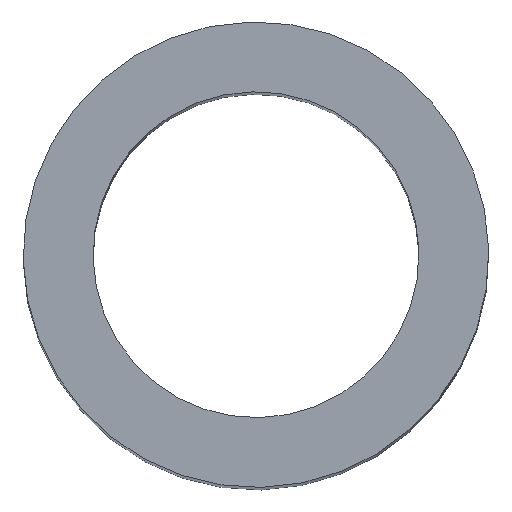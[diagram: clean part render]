
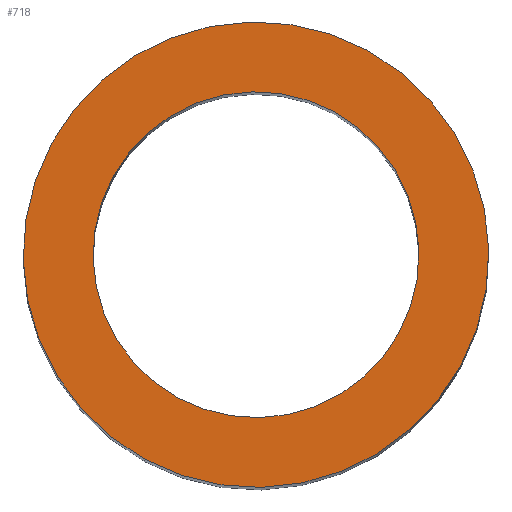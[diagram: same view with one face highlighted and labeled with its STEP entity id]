
A CAD part, top view. The second image highlights one B-rep face of the part: STEP entity #718.
In plain terms, the highlighted planar face has unit normal (0, 0, 1).
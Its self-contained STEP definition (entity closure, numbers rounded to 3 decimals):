
#718 = ADVANCED_FACE('',(#719,#760),#734,.F.);
#719 = FACE_BOUND('',#720,.T.);
#720 = EDGE_LOOP('',(#721,#745));
#721 = ORIENTED_EDGE('',*,*,#722,.F.);
#722 = EDGE_CURVE('',#723,#725,#727,.T.);
#723 = VERTEX_POINT('',#724);
#724 = CARTESIAN_POINT('',(4.438,5.633,19.));
#725 = VERTEX_POINT('',#726);
#726 = CARTESIAN_POINT('',(1.562,0.367,19.));
#727 = SURFACE_CURVE('',#728,(#733),.PCURVE_S1.);
#728 = CIRCLE('',#729,3.);
#729 = AXIS2_PLACEMENT_3D('',#730,#731,#732);
#730 = CARTESIAN_POINT('',(3.,3.,19.));
#731 = DIRECTION('',(0.,0.,-1.));
#732 = DIRECTION('',(0.,-1.,0.));
#733 = PCURVE('',#734,#739);
#734 = PLANE('',#735);
#735 = AXIS2_PLACEMENT_3D('',#736,#737,#738);
#736 = CARTESIAN_POINT('',(3.,6.,19.));
#737 = DIRECTION('',(0.,0.,-1.));
#738 = DIRECTION('',(1.,0.,0.));
#739 = DEFINITIONAL_REPRESENTATION('',(#740),#744);
#740 = CIRCLE('',#741,3.);
#741 = AXIS2_PLACEMENT_2D('',#742,#743);
#742 = CARTESIAN_POINT('',(0.,3.));
#743 = DIRECTION('',(0.,1.));
#744 = ( GEOMETRIC_REPRESENTATION_CONTEXT(2) 
PARAMETRIC_REPRESENTATION_CONTEXT() REPRESENTATION_CONTEXT('2D SPACE',''
  ) );
#745 = ORIENTED_EDGE('',*,*,#746,.F.);
#746 = EDGE_CURVE('',#725,#723,#747,.T.);
#747 = SURFACE_CURVE('',#748,(#753),.PCURVE_S1.);
#748 = CIRCLE('',#749,3.);
#749 = AXIS2_PLACEMENT_3D('',#750,#751,#752);
#750 = CARTESIAN_POINT('',(3.,3.,19.));
#751 = DIRECTION('',(0.,0.,-1.));
#752 = DIRECTION('',(0.,-1.,0.));
#753 = PCURVE('',#734,#754);
#754 = DEFINITIONAL_REPRESENTATION('',(#755),#759);
#755 = CIRCLE('',#756,3.);
#756 = AXIS2_PLACEMENT_2D('',#757,#758);
#757 = CARTESIAN_POINT('',(0.,3.));
#758 = DIRECTION('',(0.,1.));
#759 = ( GEOMETRIC_REPRESENTATION_CONTEXT(2) 
PARAMETRIC_REPRESENTATION_CONTEXT() REPRESENTATION_CONTEXT('2D SPACE',''
  ) );
#760 = FACE_BOUND('',#761,.T.);
#761 = EDGE_LOOP('',(#762,#781));
#762 = ORIENTED_EDGE('',*,*,#763,.T.);
#763 = EDGE_CURVE('',#764,#766,#768,.T.);
#764 = VERTEX_POINT('',#765);
#765 = CARTESIAN_POINT('',(1.157,4.007,19.));
#766 = VERTEX_POINT('',#767);
#767 = CARTESIAN_POINT('',(4.843,1.993,19.));
#768 = SURFACE_CURVE('',#769,(#774),.PCURVE_S1.);
#769 = CIRCLE('',#770,2.1);
#770 = AXIS2_PLACEMENT_3D('',#771,#772,#773);
#771 = CARTESIAN_POINT('',(3.,3.,19.));
#772 = DIRECTION('',(0.,0.,-1.));
#773 = DIRECTION('',(0.,-1.,0.));
#774 = PCURVE('',#734,#775);
#775 = DEFINITIONAL_REPRESENTATION('',(#776),#780);
#776 = CIRCLE('',#777,2.1);
#777 = AXIS2_PLACEMENT_2D('',#778,#779);
#778 = CARTESIAN_POINT('',(0.,3.));
#779 = DIRECTION('',(0.,1.));
#780 = ( GEOMETRIC_REPRESENTATION_CONTEXT(2) 
PARAMETRIC_REPRESENTATION_CONTEXT() REPRESENTATION_CONTEXT('2D SPACE',''
  ) );
#781 = ORIENTED_EDGE('',*,*,#782,.T.);
#782 = EDGE_CURVE('',#766,#764,#783,.T.);
#783 = SURFACE_CURVE('',#784,(#789),.PCURVE_S1.);
#784 = CIRCLE('',#785,2.1);
#785 = AXIS2_PLACEMENT_3D('',#786,#787,#788);
#786 = CARTESIAN_POINT('',(3.,3.,19.));
#787 = DIRECTION('',(0.,0.,-1.));
#788 = DIRECTION('',(0.,-1.,0.));
#789 = PCURVE('',#734,#790);
#790 = DEFINITIONAL_REPRESENTATION('',(#791),#795);
#791 = CIRCLE('',#792,2.1);
#792 = AXIS2_PLACEMENT_2D('',#793,#794);
#793 = CARTESIAN_POINT('',(0.,3.));
#794 = DIRECTION('',(0.,1.));
#795 = ( GEOMETRIC_REPRESENTATION_CONTEXT(2) 
PARAMETRIC_REPRESENTATION_CONTEXT() REPRESENTATION_CONTEXT('2D SPACE',''
  ) );
